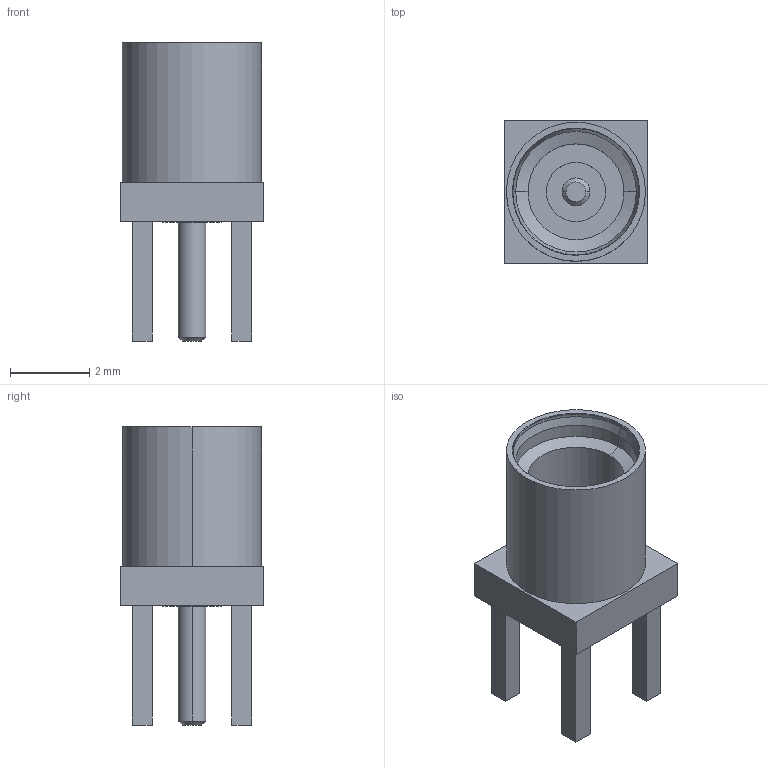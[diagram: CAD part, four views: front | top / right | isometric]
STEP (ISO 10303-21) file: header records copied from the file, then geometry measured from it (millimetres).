
FILE_DESCRIPTION (( 'STEP AP214' ), '1' );
FILE_NAME ('MMCX-TH_DL-MMCX-KE-180.step', '2022-08-04T05:39:49', ( '' ), ( '' ), 'SwSTEP 2.0', 'SolidWorks 2020', '' );
FILE_SCHEMA (( 'AUTOMOTIVE_DESIGN' ));
Length unit declared in the file: millimetre
Products named in the file (1): MMCX-TH_DL-MMCX-KE-180
Bounding box: 3.6 x 3.6 x 7.5 mm (x, y, z)
Volume: 35.2 mm3; surface area: 137.8 mm2
Topology: 14 solids, 14 shells, 348 faces, 895 edges, 592 vertices
Faces by surface type: plane 210, bspline 112, cylinder 16, cone 10
Entity records: 15053 total; most frequent: CARTESIAN_POINT 3940, ORIENTED_EDGE 1790, DIRECTION 1179, EDGE_CURVE 895, VECTOR 629, LINE 629, VERTEX_POINT 592, EDGE_LOOP 377
